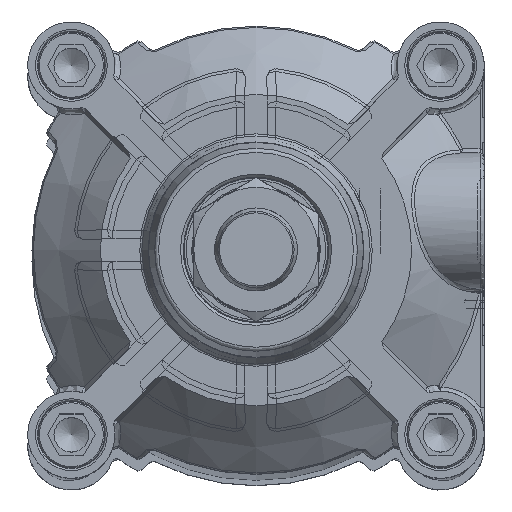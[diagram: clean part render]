
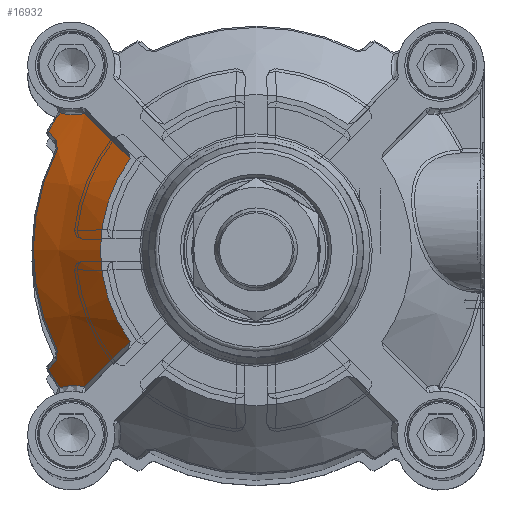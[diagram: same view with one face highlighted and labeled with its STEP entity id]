
A CAD part, top view. The second image highlights one B-rep face of the part: STEP entity #16932.
In plain terms, the highlighted conical face has half-angle 47.936 degrees and reference radius 47.75 mm.
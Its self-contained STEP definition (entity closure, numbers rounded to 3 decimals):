
#371=B_SPLINE_CURVE_WITH_KNOTS('',3,(#25662,#25663,#25664,#25665),
 .UNSPECIFIED.,.F.,.F.,(4,4),(0.,1.),.UNSPECIFIED.);
#377=B_SPLINE_CURVE_WITH_KNOTS('',3,(#25746,#25747,#25748,#25749,#25750,
#25751,#25752,#25753,#25754,#25755),.UNSPECIFIED.,.F.,.F.,(4,1,1,1,1,1,
1,4),(0.,0.25,0.375,0.5,0.625,0.75,0.875,1.),.UNSPECIFIED.);
#380=B_SPLINE_CURVE_WITH_KNOTS('',3,(#25816,#25817,#25818,#25819,#25820),
 .UNSPECIFIED.,.F.,.F.,(4,1,4),(0.,0.5,1.),.UNSPECIFIED.);
#386=B_SPLINE_CURVE_WITH_KNOTS('',3,(#25881,#25882,#25883,#25884,#25885),
 .UNSPECIFIED.,.F.,.F.,(4,1,4),(0.,0.5,1.),.UNSPECIFIED.);
#389=B_SPLINE_CURVE_WITH_KNOTS('',3,(#25910,#25911,#25912,#25913),
 .UNSPECIFIED.,.F.,.F.,(4,4),(0.,1.),.UNSPECIFIED.);
#397=B_SPLINE_CURVE_WITH_KNOTS('',3,(#26015,#26016,#26017,#26018,#26019,
#26020,#26021,#26022,#26023),.UNSPECIFIED.,.F.,.F.,(4,1,1,1,1,1,4),(0.,
0.25,0.375,0.5,0.625,0.75,1.),.UNSPECIFIED.);
#400=B_SPLINE_CURVE_WITH_KNOTS('',3,(#26040,#26041,#26042,#26043),
 .UNSPECIFIED.,.F.,.F.,(4,4),(0.,1.),.UNSPECIFIED.);
#401=B_SPLINE_CURVE_WITH_KNOTS('',3,(#26060,#26061,#26062,#26063),
 .UNSPECIFIED.,.F.,.F.,(4,4),(0.,1.),.UNSPECIFIED.);
#2432=CONICAL_SURFACE('',#17998,47.75,0.837);
#3996=ORIENTED_EDGE('',*,*,#7124,.F.);
#3997=ORIENTED_EDGE('',*,*,#7121,.F.);
#3998=ORIENTED_EDGE('',*,*,#7116,.F.);
#3999=ORIENTED_EDGE('',*,*,#7110,.F.);
#4000=ORIENTED_EDGE('',*,*,#7103,.F.);
#4001=ORIENTED_EDGE('',*,*,#7105,.F.);
#4002=ORIENTED_EDGE('',*,*,#7097,.F.);
#4003=ORIENTED_EDGE('',*,*,#7135,.F.);
#4004=ORIENTED_EDGE('',*,*,#7095,.F.);
#4005=ORIENTED_EDGE('',*,*,#7090,.F.);
#4006=ORIENTED_EDGE('',*,*,#7084,.F.);
#4007=ORIENTED_EDGE('',*,*,#6983,.F.);
#6983=EDGE_CURVE('',#8704,#8705,#9692,.T.);
#7084=EDGE_CURVE('',#8705,#8760,#371,.T.);
#7090=EDGE_CURVE('',#8760,#8765,#377,.F.);
#7095=EDGE_CURVE('',#8765,#8769,#9726,.T.);
#7097=EDGE_CURVE('',#8770,#8771,#380,.F.);
#7103=EDGE_CURVE('',#8776,#8777,#386,.F.);
#7105=EDGE_CURVE('',#8771,#8776,#9728,.T.);
#7110=EDGE_CURVE('',#8777,#8780,#389,.T.);
#7116=EDGE_CURVE('',#8780,#8783,#9732,.T.);
#7121=EDGE_CURVE('',#8783,#8787,#397,.F.);
#7124=EDGE_CURVE('',#8787,#8704,#400,.T.);
#7135=EDGE_CURVE('',#8769,#8770,#401,.T.);
#8704=VERTEX_POINT('',#25086);
#8705=VERTEX_POINT('',#25088);
#8760=VERTEX_POINT('',#25649);
#8765=VERTEX_POINT('',#25705);
#8769=VERTEX_POINT('',#25772);
#8770=VERTEX_POINT('',#25821);
#8771=VERTEX_POINT('',#25822);
#8776=VERTEX_POINT('',#25880);
#8777=VERTEX_POINT('',#25886);
#8780=VERTEX_POINT('',#25907);
#8783=VERTEX_POINT('',#25953);
#8787=VERTEX_POINT('',#25985);
#9692=CIRCLE('',#17907,37.5);
#9726=CIRCLE('',#17974,57.67);
#9728=CIRCLE('',#17977,53.67);
#9732=CIRCLE('',#17984,57.67);
#10530=EDGE_LOOP('',(#3996,#3997,#3998,#3999,#4000,#4001,#4002,#4003,#4004,
#4005,#4006,#4007));
#11434=FACE_BOUND('',#10530,.T.);
#16932=ADVANCED_FACE('',(#11434),#2432,.T.);
#17907=AXIS2_PLACEMENT_3D('',#25087,#20095,#20096);
#17974=AXIS2_PLACEMENT_3D('',#25784,#20255,#20256);
#17977=AXIS2_PLACEMENT_3D('',#25892,#20261,#20262);
#17984=AXIS2_PLACEMENT_3D('',#25965,#20275,#20276);
#17998=AXIS2_PLACEMENT_3D('',#26075,#20317,#20318);
#20095=DIRECTION('',(0.,0.,1.));
#20096=DIRECTION('',(1.,0.,0.));
#20255=DIRECTION('',(0.,0.,-1.));
#20256=DIRECTION('',(-0.842,-0.54,0.));
#20261=DIRECTION('',(0.,0.,-1.));
#20262=DIRECTION('',(-1.,0.,0.));
#20275=DIRECTION('',(0.,0.,-1.));
#20276=DIRECTION('',(-0.842,0.54,0.));
#20317=DIRECTION('',(0.,0.,-1.));
#20318=DIRECTION('',(0.707,-0.707,0.));
#25086=CARTESIAN_POINT('',(-30.355,22.019,48.5));
#25087=CARTESIAN_POINT('',(0.,0.,48.5));
#25088=CARTESIAN_POINT('',(-30.355,-22.019,48.5));
#25649=CARTESIAN_POINT('',(-41.282,-32.903,34.702));
#25662=CARTESIAN_POINT('',(-30.358,-22.021,48.504));
#25663=CARTESIAN_POINT('',(-34.,-25.649,43.905));
#25664=CARTESIAN_POINT('',(-37.642,-29.277,39.305));
#25665=CARTESIAN_POINT('',(-41.284,-32.905,34.706));
#25705=CARTESIAN_POINT('',(-47.23,-33.093,30.298));
#25746=CARTESIAN_POINT('',(-47.23,-33.093,30.298));
#25747=CARTESIAN_POINT('',(-46.753,-32.949,30.725));
#25748=CARTESIAN_POINT('',(-46.041,-32.783,31.337));
#25749=CARTESIAN_POINT('',(-45.082,-32.654,32.107));
#25750=CARTESIAN_POINT('',(-44.391,-32.603,32.638));
#25751=CARTESIAN_POINT('',(-43.599,-32.596,33.216));
#25752=CARTESIAN_POINT('',(-42.86,-32.639,33.725));
#25753=CARTESIAN_POINT('',(-42.051,-32.74,34.248));
#25754=CARTESIAN_POINT('',(-41.538,-32.842,34.555));
#25755=CARTESIAN_POINT('',(-41.282,-32.903,34.702));
#25772=CARTESIAN_POINT('',(-50.032,-28.682,30.298));
#25784=CARTESIAN_POINT('',(0.,0.,30.298));
#25816=CARTESIAN_POINT('',(-47.877,-24.254,33.908));
#25817=CARTESIAN_POINT('',(-47.676,-24.652,33.908));
#25818=CARTESIAN_POINT('',(-47.576,-25.587,33.595));
#25819=CARTESIAN_POINT('',(-47.909,-26.221,33.054));
#25820=CARTESIAN_POINT('',(-48.141,-26.49,32.754));
#25821=CARTESIAN_POINT('',(-48.141,-26.49,32.754));
#25822=CARTESIAN_POINT('',(-47.877,-24.254,33.908));
#25880=CARTESIAN_POINT('',(-47.877,24.254,33.908));
#25881=CARTESIAN_POINT('',(-48.141,26.49,32.754));
#25882=CARTESIAN_POINT('',(-47.908,26.219,33.057));
#25883=CARTESIAN_POINT('',(-47.574,25.585,33.597));
#25884=CARTESIAN_POINT('',(-47.679,24.645,33.908));
#25885=CARTESIAN_POINT('',(-47.877,24.254,33.908));
#25886=CARTESIAN_POINT('',(-48.141,26.49,32.754));
#25892=CARTESIAN_POINT('',(0.,0.,33.908));
#25907=CARTESIAN_POINT('',(-50.032,28.682,30.298));
#25910=CARTESIAN_POINT('',(-48.141,26.49,32.755));
#25911=CARTESIAN_POINT('',(-48.772,27.221,31.936));
#25912=CARTESIAN_POINT('',(-49.402,27.952,31.117));
#25913=CARTESIAN_POINT('',(-50.032,28.682,30.298));
#25953=CARTESIAN_POINT('',(-47.23,33.093,30.298));
#25965=CARTESIAN_POINT('',(0.,0.,30.298));
#25985=CARTESIAN_POINT('',(-41.282,32.903,34.702));
#26015=CARTESIAN_POINT('',(-41.282,32.903,34.702));
#26016=CARTESIAN_POINT('',(-41.783,32.785,34.414));
#26017=CARTESIAN_POINT('',(-42.548,32.659,33.939));
#26018=CARTESIAN_POINT('',(-43.573,32.595,33.235));
#26019=CARTESIAN_POINT('',(-44.39,32.603,32.639));
#26020=CARTESIAN_POINT('',(-45.079,32.655,32.109));
#26021=CARTESIAN_POINT('',(-46.042,32.783,31.335));
#26022=CARTESIAN_POINT('',(-46.754,32.949,30.724));
#26023=CARTESIAN_POINT('',(-47.23,33.093,30.298));
#26040=CARTESIAN_POINT('',(-41.284,32.905,34.706));
#26041=CARTESIAN_POINT('',(-37.642,29.277,39.305));
#26042=CARTESIAN_POINT('',(-34.,25.649,43.905));
#26043=CARTESIAN_POINT('',(-30.358,22.021,48.504));
#26060=CARTESIAN_POINT('',(-50.032,-28.682,30.298));
#26061=CARTESIAN_POINT('',(-49.402,-27.952,31.117));
#26062=CARTESIAN_POINT('',(-48.772,-27.221,31.936));
#26063=CARTESIAN_POINT('',(-48.141,-26.49,32.755));
#26075=CARTESIAN_POINT('',(0.,0.,39.25));
